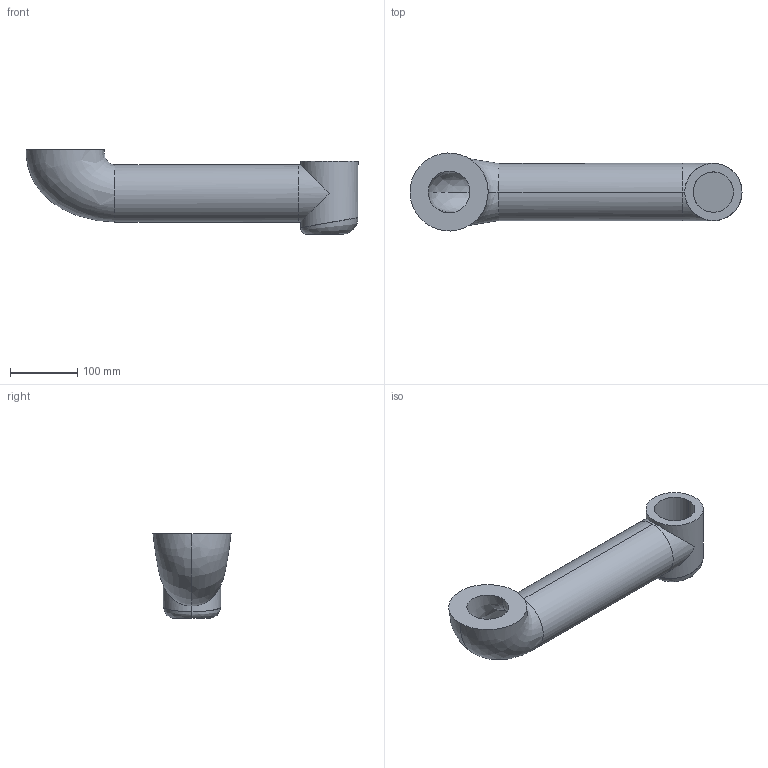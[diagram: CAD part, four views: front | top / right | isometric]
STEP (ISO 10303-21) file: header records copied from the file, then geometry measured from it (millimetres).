
FILE_DESCRIPTION (( 'STEP AP214' ), '1' );
FILE_NAME ('LINK3.STEP', '2020-08-19T15:03:46', ( '' ), ( '' ), 'SwSTEP 2.0', 'SolidWorks 2019', '' );
FILE_SCHEMA (( 'AUTOMOTIVE_DESIGN' ));
Length unit declared in the file: millimetre
Products named in the file (1): LINK3
Bounding box: 493 x 115.94 x 126.2 mm (x, y, z)
Surface area: 254729.5 mm2 (no closed solid volume)
Topology: 0 solids, 3 shells, 26 faces, 60 edges, 38 vertices
Faces by surface type: cylinder 14, bspline 6, plane 6
Entity records: 2669 total; most frequent: CARTESIAN_POINT 1847, ORIENTED_EDGE 114, DIRECTION 90, EDGE_CURVE 60, VERTEX_POINT 38, AXIS2_PLACEMENT_3D 37, EDGE_LOOP 29, UNCERTAINTY_MEASURE_WITH_UNIT 28
